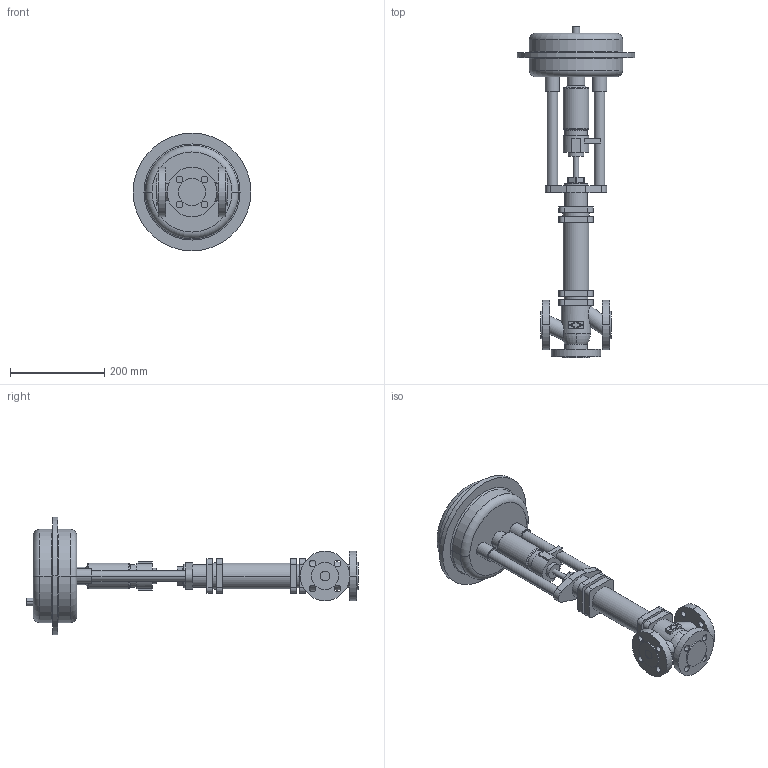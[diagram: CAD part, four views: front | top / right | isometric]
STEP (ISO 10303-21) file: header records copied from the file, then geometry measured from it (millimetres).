
FILE_DESCRIPTION(('OneSpaceDesigner STEP Export'),'2;1');
FILE_NAME('c000000719.stp','2006-09-20T11:13:42',(''),(''),'OneSpace Designer STEP processor for AP214 (Solid Model)','OneSpace Designer 13.20A 18-Aug-2005 (C) CoCreate Software GmbH','');
FILE_SCHEMA(('AUTOMOTIVE_DESIGN { 1 0 10303 214 1 1 1 1 }'));
Length unit declared in the file: millimetre
Products named in the file (2): 1; 2
Bounding box: 250 x 705 x 250 mm (x, y, z)
Volume: 5077740 mm3; surface area: 396176.7 mm2
Topology: 2 solids, 2 shells, 236 faces, 573 edges, 376 vertices
Faces by surface type: cylinder 114, plane 100, torus 18, cone 4
Entity records: 6415 total; most frequent: CARTESIAN_POINT 1170, ORIENTED_EDGE 1146, DIRECTION 994, EDGE_CURVE 573, VERTEX_POINT 376, AXIS2_PLACEMENT_3D 356, EDGE_LOOP 295, VECTOR 282
